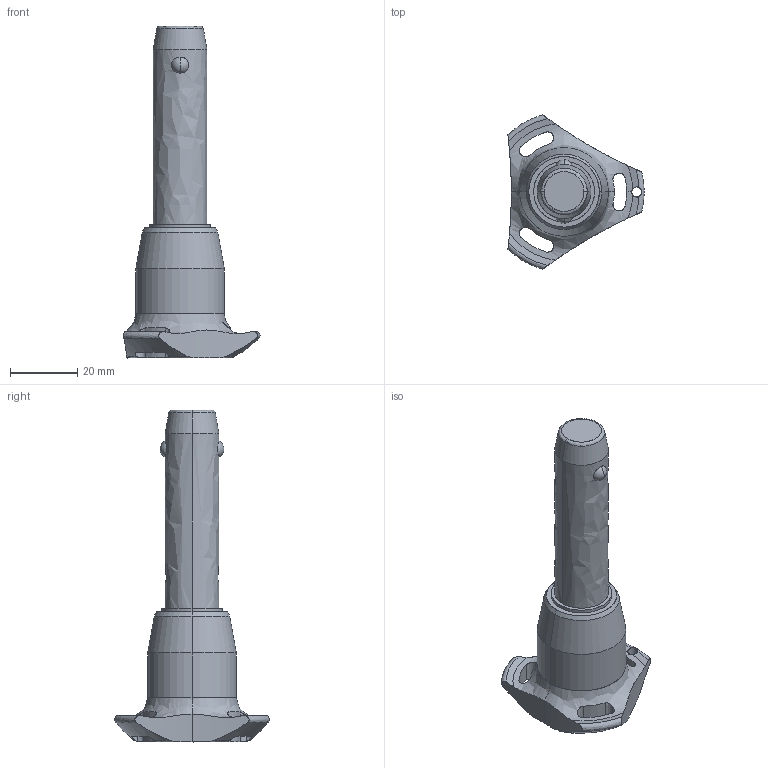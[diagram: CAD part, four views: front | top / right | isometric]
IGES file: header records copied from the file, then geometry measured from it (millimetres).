
Start section: SolidWorks IGES file using analytic representation for surfaces
Global section: file name: C:\Users\ianosborn\Desktop\QR1704_v2\QR1704_v2_20251111_IGES\QR1704.M16-045-S.igs; native system: SolidWorks 2019; preprocessor: SolidWorks 2019; author: IanOsborn; date: 251112.092925; units: millimetre
Bounding box: 40.5 x 45.88 x 98.7 mm (x, y, z)
Surface area: 8920.5 mm2 (no closed solid volume)
Topology: 0 solids, 0 shells, 65 faces, 1379 edges, 1375 vertices
Faces by surface type: revolution 50, bspline 15
